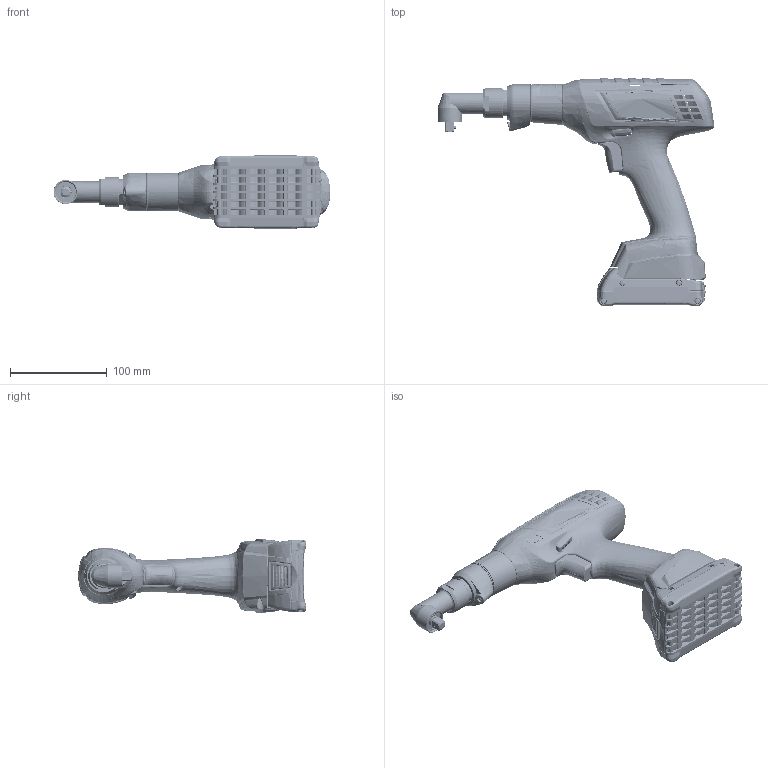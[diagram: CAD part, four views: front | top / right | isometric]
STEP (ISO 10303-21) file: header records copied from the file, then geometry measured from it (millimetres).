
FILE_DESCRIPTION((''),'2;1');
FILE_NAME('3602D94400_ASM','2013-10-31T',('scn2mt'),(''),'PRO/ENGINEER BY PARAMETRIC TECHNOLOGY CORPORATION, 2011490','PRO/ENGINEER BY PARAMETRIC TECHNOLOGY CORPORATION, 2011490','');
FILE_SCHEMA(('AUTOMOTIVE_DESIGN_CC2 { 1 2 10303 214 -1 1 5 2 }'));
Products named in the file (85): 3602D94400_SKEL01; 3605105048_100; 3605105048_200; 3602D94400_10_ASM; 3602D94400_70_SKEL; 3602D94400_70; 3602D94400_70_ASM; 3604460132; 3607031567_SKEL01; 3603124023-1_AF0; 1903230006_LE_AF0; 1903230006_LE_AF1; 1903230008_LE_AF0; 1903230008_LE_AF1; 1903230008_LE_AF2; 1903230008_LE_AF3; 1903230008_LE_AF4; 1903230008_LE_AF5; 3607031567_ASM; 3602D94400_80_SKEL; 3602D94400_80_24; 3602D94400_80_25; 3602D94400_80_28; 3602D94400_80_26; 3602D94400_80_23_ASM; 3602D94400_80_10_SKEL; 3602D94400_80_10_ASM; 3602D94400_80_ASM; 3602D94400_90_SKEL; 3602D94400_90_04; 1607502625_SKEL0001; 1607502625_01; 1607502625_02; 1607502625_ASM; 3602D94400_90_ASM; 3602D94400_80_29_SKEL; 3602D94400_80_31; 3602D94400_80_37; 3602D94400_80_30; 3602D94400_80_40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
Assembly tree (107 placements, depth 4):
  3602D94400_ASM
    3602D94400_SKEL01
    3602D94400_10_ASM
      3605105048_100
      3605105048_200
    3602D94400_70_ASM
      3602D94400_70_SKEL
      3602D94400_70
    3604460132  x2
    3607031567_ASM
      3607031567_SKEL01
      3603124023-1_AF0
      1903230006_LE_AF0
      1903230006_LE_AF1
      1903230008_LE_AF0
      1903230008_LE_AF1
      1903230008_LE_AF2
      1903230008_LE_AF3
      1903230008_LE_AF4
      1903230008_LE_AF5
    3602D94400_80_ASM
      3602D94400_80_SKEL
      3602D94400_80_23_ASM
        3602D94400_80_24
        3602D94400_80_25
        3602D94400_80_28
        3602D94400_80_26  x2
      3602D94400_80_10_ASM
        3602D94400_80_10_SKEL
    3602D94400_90_ASM
      3602D94400_90_SKEL
      3602D94400_90_04
      1607502625_ASM
        1607502625_SKEL0001
        1607502625_01
        1607502625_02
    3602D94400_80_29_ASM
      3602D94400_80_29_SKEL
      3602D94400_80_31
      3602D94400_80_37
      3602D94400_80_30
      3602D94400_80_40
      3602D94400_80_36
      3602D94400_80_32
      3602D94400_80_35
      3602D94400_80_41
    1607502627_ASM
      1607502627_SKEL0001
    1607502626_ASM
      1607502626_SKEL0001
      1607502626_DUMMY
    1607233516_ASM
      1607233516_SKEL0001
    3609202B07_ASM
      3605700165
      1280905004_LE_ASM
        1280905004_1_LE
        1280905004_2_LE
        1280905004_3_LE  x2
        1280905004_4_LE  x8
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Bounding box: 285.92 x 235.69 x 77.2 mm (x, y, z)
Volume: 384373.2 mm3; surface area: 365109.2 mm2
Topology: 81 solids, 81 shells, 17913 faces, 46461 edges, 28777 vertices
Faces by surface type: plane 6519, bspline 4643, cylinder 4266, cone 922, torus 754, sphere 574, extrusion 229, revolution 6
Entity records: 1227423 total; most frequent: CARTESIAN_POINT 640047, ORIENTED_EDGE 89264, DIRECTION 64261, PRESENTATION_STYLE_ASSIGNMENT 54190, EDGE_CURVE 44632, STYLED_ITEM 43575, CURVE_STYLE 43446, VERTEX_POINT 27736
